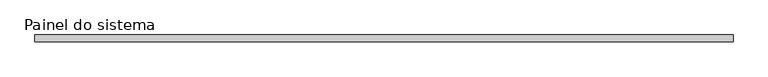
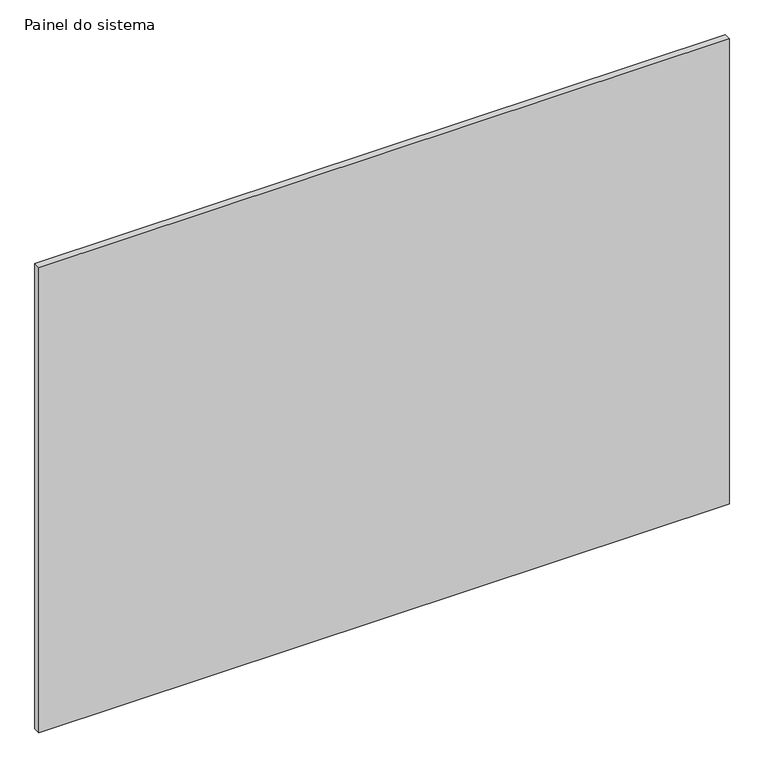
"""IFC4 building model written with IfcOpenShell, lengths in millimetres: plate geometry, Painel do sistema : ALAMBRADO."""

from ifc_helpers import new_model, si_unit, origin, origin_with_axes, place, context, project, spatial, polyline, outline, extrude, source, transform, mapped, element, save


def painel_do_sistema_0fee1ea1(model_context):
    return source(origin(), model_context, "Body", "SweptSolid", [
        extrude(outline(polyline([(1263.0045491, 24.5), (-1263.0045491, 24.5), (-1263.0045491, 49.5), (1263.0045491, 49.5), (1263.0045491, 24.5)])), origin_with_axes(), (0.0, 0.0, 1.0), 1800.0),
    ])


if __name__ == "__main__":
    model = new_model("IFC4")
    model_context = context("Model", 3, world=origin())
    ifc_project = project(units=[si_unit("LENGTHUNIT", "METRE", prefix="MILLI")], contexts=[model_context])
    site = spatial("IfcSite", under=ifc_project)
    building = spatial("IfcBuilding", under=site)
    placement = place(None, origin())
    painel_do_sistema_shape = painel_do_sistema_0fee1ea1(model_context)
    element("IfcPlate", 1, ObjectType="Painel do sistema : ALAMBRADO", at=placement, inside=building, context=model_context, shape_type="MappedRepresentation", body=[
        mapped(painel_do_sistema_shape, transform((0.0, 0.0, 0.0), x_axis=(1.0, 0.0, 0.0), y_axis=(0.0, 1.0, 0.0), z_axis=(0.0, 0.0, 1.0))),
    ])
    save(model, "model.ifc")
